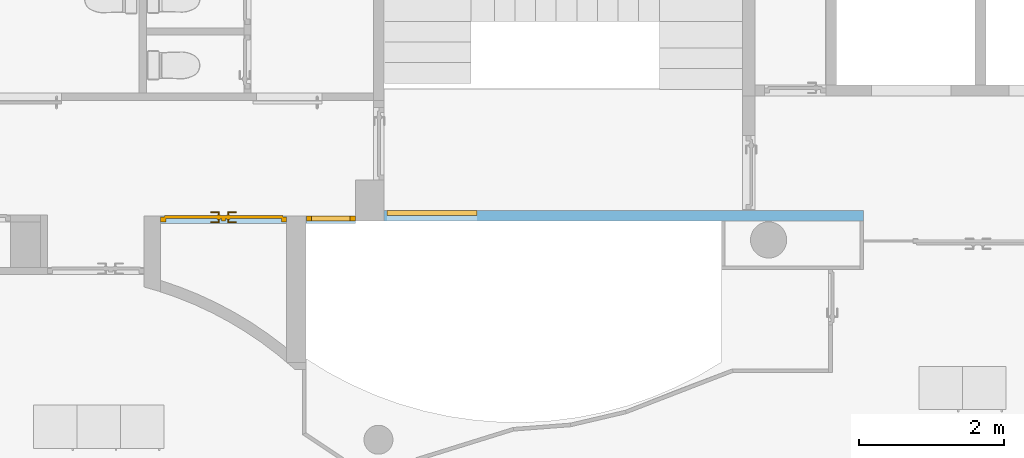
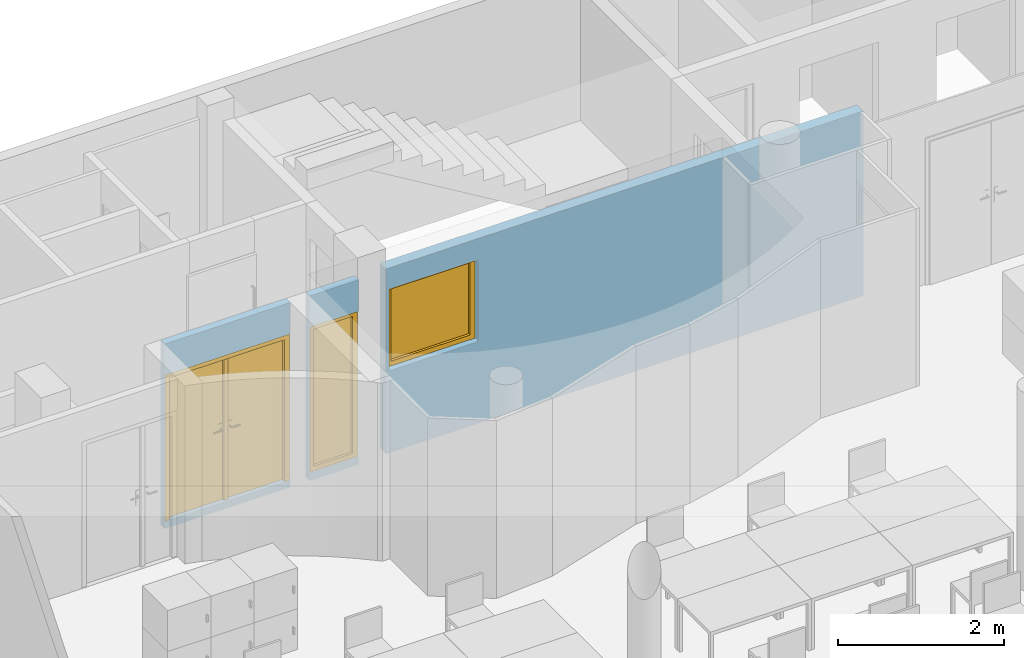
"""IFC4 building model written with IfcOpenShell, lengths in metres."""

from ifc_helpers import new_model, entity, si_unit, converted_unit, derived_unit, frame, frame_2d, origin, origin_with_axes, place, context, subcontext, project, spatial, polyline, rectangle, outline, extrude, closed_shell, open_shell, faceted_brep, surface_model, source, transform, mapped, material, layer, layer_set, layer_usage, type_object, element, fill, save


model = new_model("IFC4")

# Units and contexts
model_context = context("Model", 3, precision=1e-05, world=origin())
body_context = subcontext(model_context, "Body", "Model", "MODEL_VIEW")
ifc_project = project(units=[si_unit("LENGTHUNIT", "METRE"), si_unit("AREAUNIT", "SQUARE_METRE"), si_unit("VOLUMEUNIT", "CUBIC_METRE"), si_unit("MASSUNIT", "GRAM", prefix="KILO"), converted_unit("PLANEANGLEUNIT", "DEGREE", entity("IfcPlaneAngleMeasure", 0.0174532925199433), si_unit("PLANEANGLEUNIT", "RADIAN"), dimensions=[0, 0, 0, 0, 0, 0, 0]), derived_unit("THERMALTRANSMITTANCEUNIT", [(si_unit("POWERUNIT", "WATT"), 1), (si_unit("THERMODYNAMICTEMPERATUREUNIT", "KELVIN"), -1), (si_unit("LENGTHUNIT", "METRE"), -2)]), derived_unit("VOLUMETRICFLOWRATEUNIT", [(si_unit("LENGTHUNIT", "METRE"), 3), (converted_unit("TIMEUNIT", "hour", entity("IfcTimeMeasure", 3600.0), si_unit("TIMEUNIT", "SECOND"), dimensions=[0, 0, 1, 0, 0, 0, 0]), -1), (si_unit("LENGTHUNIT", "METRE"), -1)])], contexts=[model_context])

# Building, storeys
building_placement = place(None, origin())
building = spatial("IfcBuilding", under=ifc_project, at=building_placement, Name="HABITATGE PLURIFAMILIAR", CompositionType="ELEMENT")
storey_1_placement = place(building_placement, frame((0.0, 0.0, 18.29)))
storey_1 = spatial("IfcBuildingStorey", under=building, at=storey_1_placement, Name="PLANTA CINQUENA", CompositionType="ELEMENT", Elevation=18.29)
storey_2_placement = place(storey_1_placement, frame((0.0, 0.0, 15.28)))
storey_2 = spatial("IfcBuildingStorey", under=storey_1, at=storey_2_placement, Name="NOU", CompositionType="PARTIAL")

# Wall, opening, window
ifc_material = material()
ifc_layer = layer(ifc_material, 0.15)
ifc_layer_set = layer_set([ifc_layer])
ifc_layer_usage = layer_usage(ifc_layer_set, "AXIS2", "POSITIVE", 0.0)
wall_1_placement = place(storey_2_placement, frame((417.446984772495, 24.3094598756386, -15.38), z_axis=(0.0, 0.0, 1.0), x_axis=(-1.0, 0.0, 0.0)))
wall_1 = element("IfcWall", 1, at=wall_1_placement, inside=storey_2, material=ifc_layer_usage, Name="Evans P5", context=body_context, shape_type="SweptSolid", body=[
    extrude(rectangle(XDim=6.61999999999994, YDim=0.15, at=frame_2d((3.30999999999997, 0.075), x_axis=(1.0, 0.0))), origin_with_axes(), (0.0, 0.0, 1.0), 2.71),
])
opening_1_placement = place(wall_1_placement, frame((6.57999999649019, 0.150000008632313, 1.2), z_axis=(0.0, -1.0, 0.0), x_axis=(0.0, 0.0, 1.0)))
opening_1 = element("IfcOpeningElement", 2, at=opening_1_placement, cuts=wall_1, Name="Vano de Finestra P5", ObjectType="Opening", context=body_context, shape_type="SweptSolid", body=[
    extrude(outline(polyline([(1.2, 1.24), (1.2, 0.0), (0.0, 0.0), (0.0, 1.24), (1.2, 1.24)])), origin_with_axes(), (0.0, 0.0, 1.0), 0.15),
])
shared_shape_1 = source(origin_with_axes(), body_context, "Body", "SurfaceModel", [
    surface_model("IfcShellBasedSurfaceModel", [(1.24, 0.0, 1.2), (1.24, 0.0, 0.0), (1.17, 0.0, 0.0), (1.17, 0.0, 1.2), (1.24, 0.07, 0.0), (1.24, 0.07, 1.2), (1.17, 0.07, 1.2), (1.17, 0.07, 0.0)], [closed_shell([[[0, 1, 2, 3]], [[4, 5, 6, 7]], [[1, 0, 5, 4]], [[2, 1, 4, 7]], [[3, 2, 7, 6]], [[0, 3, 6, 5]]], orient=[[False], [False], [False], [False], [False], [False]])]),
    surface_model("IfcShellBasedSurfaceModel", [(0.07, 0.0, 1.2), (0.07, 0.0, 0.0), (0.0, 0.0, 0.0), (0.0, 0.0, 1.2), (0.07, 0.07, 0.0), (0.07, 0.07, 1.2), (0.0, 0.07, 1.2), (0.0, 0.07, 0.0)], [closed_shell([[[0, 1, 2, 3]], [[4, 5, 6, 7]], [[1, 0, 5, 4]], [[2, 1, 4, 7]], [[3, 2, 7, 6]], [[0, 3, 6, 5]]], orient=[[False], [False], [False], [False], [False], [False]])]),
    surface_model("IfcShellBasedSurfaceModel", [(1.17, 0.0, 0.07), (1.17, 0.0, 0.0), (0.07, 0.0, 0.0), (0.07, 0.0, 0.07), (1.17, 0.07, 0.0), (1.17, 0.07, 0.07), (0.07, 0.07, 0.07), (0.07, 0.07, 0.0)], [closed_shell([[[0, 1, 2, 3]], [[4, 5, 6, 7]], [[1, 0, 5, 4]], [[2, 1, 4, 7]], [[3, 2, 7, 6]], [[0, 3, 6, 5]]], orient=[[False], [False], [False], [False], [False], [False]])]),
    surface_model("IfcShellBasedSurfaceModel", [(1.17, 0.0, 1.2), (1.17, 0.0, 1.13), (0.07, 0.0, 1.13), (0.07, 0.0, 1.2), (1.17, 0.07, 1.13), (1.17, 0.07, 1.2), (0.07, 0.07, 1.2), (0.07, 0.07, 1.13)], [closed_shell([[[0, 1, 2, 3]], [[4, 5, 6, 7]], [[1, 0, 5, 4]], [[2, 1, 4, 7]], [[3, 2, 7, 6]], [[0, 3, 6, 5]]], orient=[[False], [False], [False], [False], [False], [False]])]),
    surface_model("IfcShellBasedSurfaceModel", [(1.17, 0.035, 0.07), (0.07, 0.035, 0.07), (0.07, 0.035, 1.13), (1.17, 0.035, 1.13)], [open_shell([[[0, 1, 2, 3]]], orient=[[False]])]),
])
window_placement = place(opening_1_placement, frame((0.0, 1.24, 0.15), z_axis=(1.0, 0.0, 0.0), x_axis=(0.0, -1.0, 0.0)))
window = element("IfcWindow", 3, at=window_placement, inside=storey_2, Name="Finestra P5", OverallHeight=1.2, OverallWidth=1.24, PartitioningType="USERDEFINED", PredefinedType="WINDOW", context=body_context, shape_type="MappedRepresentation", body=[
    mapped(shared_shape_1, transform((0.0, 0.0, 0.0), x_axis=(1.0, 0.0, 0.0), y_axis=(0.0, 1.0, 0.0), z_axis=(0.0, 0.0, 1.0), scale=1.0)),
])
fill(opening_1, window)

# Wall, openings, doors
wall_2_placement = place(storey_2_placement, frame((410.426984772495, 24.2294598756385, -15.38), z_axis=(0.0, 0.0, 1.0), x_axis=(-1.0, 0.0, 0.0)))
wall_2 = element("IfcWall", 4, at=wall_2_placement, inside=storey_2, Name="Evans P5", context=body_context, shape_type="SweptSolid", body=[
    extrude(rectangle(XDim=1.73999999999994, YDim=0.1, at=frame_2d((0.869999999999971, 0.05), x_axis=(1.0, 0.0))), frame((0.950000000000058, 0.0, 0.0), z_axis=(0.0, 0.0, 1.0), x_axis=(1.0, 0.0, 0.0)), (0.0, 0.0, 1.0), 2.71),
    extrude(rectangle(XDim=0.1, YDim=0.680000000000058, at=frame_2d((0.340000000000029, -0.05), x_axis=(0.0, -1.0))), frame((0.0, 0.1, 0.0), z_axis=(0.0, 0.0, 1.0), x_axis=(1.0, 0.0, 0.0)), (0.0, 0.0, 1.0), 2.71),
])
opening_2_placement = place(wall_2_placement, frame((0.67699491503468, 0.1, 0.1), z_axis=(0.0, -1.0, 0.0), x_axis=(0.0, 0.0, 1.0)))
opening_2 = element("IfcOpeningElement", 5, at=opening_2_placement, cuts=wall_2, Name="Vano porta P5", ObjectType="Opening", context=body_context, shape_type="SweptSolid", body=[
    extrude(outline(polyline([(2.15, 0.67699491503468), (2.15, 0.0), (0.0, 0.0), (0.0, 0.67699491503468), (2.15, 0.67699491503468)])), origin_with_axes(), (0.0, 0.0, 1.0), 0.1),
])
opening_3_placement = place(wall_2_placement, frame((2.68829609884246, 0.1, 0.1), z_axis=(0.0, -1.0, 0.0), x_axis=(0.0, 0.0, 1.0)))
opening_3 = element("IfcOpeningElement", 6, at=opening_3_placement, cuts=wall_2, Name="Vano porta P5", ObjectType="Opening", context=body_context, shape_type="SweptSolid", body=[
    extrude(outline(polyline([(2.15, 1.73829609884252), (2.15, 0.0), (0.0, 0.0), (0.0, 1.73829609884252), (2.15, 1.73829609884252)])), origin_with_axes(), (0.0, 0.0, 1.0), 0.1),
])
door_type = type_object("IfcDoorType", Name="Porta P5", OperationType="NOTDEFINED", ParameterTakesPrecedence=False, PredefinedType="DOOR")
shared_shape_2 = source(origin_with_axes(), body_context, "Body", "SurfaceModel", [
    surface_model("IfcShellBasedSurfaceModel", [(0.0, 0.0700000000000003, 2.15), (0.0, 0.07, 0.0), (0.07, 0.07, 0.0), (0.07, 0.0700000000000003, 2.15), (0.0, 0.0, 0.0), (0.0, 0.0, 2.15), (0.07, 0.0, 2.15), (0.07, 0.0, 0.0)], [closed_shell([[[0, 1, 2, 3]], [[4, 5, 6, 7]], [[1, 0, 5, 4]], [[2, 1, 4, 7]], [[3, 2, 7, 6]], [[0, 3, 6, 5]]], orient=[[False], [False], [False], [False], [False], [False]])]),
    surface_model("IfcShellBasedSurfaceModel", [(0.606994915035, 0.0700000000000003, 2.15), (0.606994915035, 0.07, 0.0), (0.676994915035, 0.07, 0.0), (0.676994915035, 0.0700000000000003, 2.15), (0.606994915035, 0.0, 0.0), (0.606994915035, 0.0, 2.15), (0.676994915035, 0.0, 2.15), (0.676994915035, 0.0, 0.0)], [closed_shell([[[0, 1, 2, 3]], [[4, 5, 6, 7]], [[1, 0, 5, 4]], [[2, 1, 4, 7]], [[3, 2, 7, 6]], [[0, 3, 6, 5]]], orient=[[False], [False], [False], [False], [False], [False]])]),
    surface_model("IfcShellBasedSurfaceModel", [(0.07, 0.07, 0.07), (0.07, 0.07, 0.0), (0.606994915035, 0.07, 0.0), (0.606994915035, 0.07, 0.07), (0.07, 0.0, 0.0), (0.07, 0.0, 0.07), (0.606994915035, 0.0, 0.07), (0.606994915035, 0.0, 0.0)], [closed_shell([[[0, 1, 2, 3]], [[4, 5, 6, 7]], [[1, 0, 5, 4]], [[2, 1, 4, 7]], [[3, 2, 7, 6]], [[0, 3, 6, 5]]], orient=[[False], [False], [False], [False], [False], [False]])]),
    surface_model("IfcShellBasedSurfaceModel", [(0.07, 0.0700000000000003, 2.15), (0.07, 0.0700000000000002, 2.08), (0.606994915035, 0.0700000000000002, 2.08), (0.606994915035, 0.0700000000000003, 2.15), (0.07, 0.0, 2.08), (0.07, 0.0, 2.15), (0.606994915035, 0.0, 2.15), (0.606994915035, 0.0, 2.08)], [closed_shell([[[0, 1, 2, 3]], [[4, 5, 6, 7]], [[1, 0, 5, 4]], [[2, 1, 4, 7]], [[3, 2, 7, 6]], [[0, 3, 6, 5]]], orient=[[False], [False], [False], [False], [False], [False]])]),
    surface_model("IfcShellBasedSurfaceModel", [(0.07, 0.035, 0.07), (0.606994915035, 0.035, 0.07), (0.606994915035, 0.0350000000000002, 2.08), (0.07, 0.0350000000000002, 2.08)], [open_shell([[[0, 1, 2, 3]]], orient=[[False]])]),
])
door_1_placement = place(opening_2_placement, frame((0.0, 0.67699491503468, 0.03), z_axis=(1.0, 0.0, 0.0), x_axis=(0.0, -0.999999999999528, 0.0)))
door_1 = element("IfcDoor", 7, at=door_1_placement, inside=storey_2, type_object=door_type, Name="Porta P5", OverallHeight=2.15, OverallWidth=0.67699, context=body_context, shape_type="MappedRepresentation", body=[
    mapped(shared_shape_2, transform((0.0, 0.0, 0.0), x_axis=(1.0, 0.0, 0.0), y_axis=(0.0, -1.0, 0.0), z_axis=(0.0, 0.0, 1.0), scale=0.999999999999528)),
])
fill(opening_2, door_1)
shared_shape_3 = source(origin_with_axes(), body_context, "Body", "Brep", [
    faceted_brep([(0.0, 0.07, 2.15), (0.0, 0.07, 0.0), (0.07, 0.07, 0.0), (0.07, 0.07, 2.15), (0.0, 0.0, 0.0), (0.0, 0.0, 2.15), (0.07, 0.0, 2.15), (0.07, 0.0, 0.0)], [[[0, 1, 2, 3]], [[4, 5, 6, 7]], [[1, 0, 5, 4]], [[2, 1, 4, 7]], [[3, 2, 7, 6]], [[0, 3, 6, 5]]], orient=[[False], [False], [False], [False], [False], [False]]),
    faceted_brep([(1.66829609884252, 0.07, 2.15), (1.66829609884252, 0.07, 0.0), (1.73829609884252, 0.07, 0.0), (1.73829609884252, 0.07, 2.15), (1.66829609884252, 0.0, 0.0), (1.66829609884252, 0.0, 2.15), (1.73829609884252, 0.0, 2.15), (1.73829609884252, 0.0, 0.0)], [[[0, 1, 2, 3]], [[4, 5, 6, 7]], [[1, 0, 5, 4]], [[2, 1, 4, 7]], [[3, 2, 7, 6]], [[0, 3, 6, 5]]], orient=[[False], [False], [False], [False], [False], [False]]),
    faceted_brep([(0.07, 0.07, 2.15), (0.07, 0.07, 2.08), (1.66829609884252, 0.07, 2.08), (1.66829609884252, 0.07, 2.15), (0.07, 0.0, 2.08), (0.07, 0.0, 2.15), (1.66829609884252, 0.0, 2.15), (1.66829609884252, 0.0, 2.08)], [[[0, 1, 2, 3]], [[4, 5, 6, 7]], [[1, 0, 5, 4]], [[2, 1, 4, 7]], [[3, 2, 7, 6]], [[0, 3, 6, 5]]], orient=[[False], [False], [False], [False], [False], [False]]),
    faceted_brep([(0.05, 0.09, 2.1), (0.05, 0.09, 0.0), (0.868648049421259, 0.09, 0.0), (0.868648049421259, 0.09, 2.1), (0.05, 0.05, 0.0), (0.05, 0.05, 2.1), (0.868648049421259, 0.05, 2.1), (0.868648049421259, 0.05, 0.0)], [[[0, 1, 2, 3]], [[4, 5, 6, 7]], [[1, 0, 5, 4]], [[2, 1, 4, 7]], [[3, 2, 7, 6]], [[0, 3, 6, 5]]], orient=[[False], [False], [False], [False], [False], [False]]),
    faceted_brep([(0.838648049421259, 0.05, 2.08), (0.838648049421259, 0.05, 0.0), (0.898648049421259, 0.05, 0.0), (0.898648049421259, 0.05, 2.08), (0.838648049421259, 0.02, 0.0), (0.838648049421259, 0.02, 2.08), (0.898648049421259, 0.02, 2.08), (0.898648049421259, 0.02, 0.0)], [[[0, 1, 2, 3]], [[4, 5, 6, 7]], [[1, 0, 5, 4]], [[2, 1, 4, 7]], [[3, 2, 7, 6]], [[0, 3, 6, 5]]], orient=[[False], [False], [False], [False], [False], [False]]),
    faceted_brep([(0.778648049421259, 0.05, 1.125), (0.778648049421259, 0.05, 0.91), (0.828648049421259, 0.05, 0.91), (0.828648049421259, 0.05, 1.125), (0.778648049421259, 0.04, 0.91), (0.778648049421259, 0.04, 1.125), (0.828648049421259, 0.04, 1.125), (0.828648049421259, 0.04, 0.91)], [[[0, 1, 2, 3]], [[4, 5, 6, 7]], [[1, 0, 5, 4]], [[2, 1, 4, 7]], [[3, 2, 7, 6]], [[0, 3, 6, 5]]], orient=[[False], [False], [False], [False], [False], [False]]),
    faceted_brep([(0.803648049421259, 0.04, 1.06), (0.798648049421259, 0.04, 1.05866025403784), (0.794987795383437, 0.04, 1.055), (0.793648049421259, 0.04, 1.05), (0.794987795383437, 0.04, 1.045), (0.798648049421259, 0.04, 1.04133974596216), (0.803648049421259, 0.04, 1.04), (0.808648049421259, 0.04, 1.04133974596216), (0.81230830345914, 0.04, 1.045), (0.813648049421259, 0.04, 1.05), (0.81230830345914, 0.04, 1.055), (0.808648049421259, 0.04, 1.05866025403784), (0.808648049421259, -0.005, 1.05866025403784), (0.803648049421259, 0.0, 1.06), (0.81230830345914, -0.00866025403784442, 1.055), (0.813648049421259, -0.01, 1.05), (0.81230830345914, -0.00866025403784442, 1.045), (0.808648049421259, -0.005, 1.04133974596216), (0.803648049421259, 0.0, 1.04), (0.798648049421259, 0.005, 1.04133974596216), (0.794987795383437, 0.00866025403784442, 1.045), (0.793648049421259, 0.01, 1.05), (0.794987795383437, 0.00866025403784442, 1.055), (0.798648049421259, 0.005, 1.05866025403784), (0.688648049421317, 0.0, 1.06), (0.688648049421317, -0.005, 1.05866025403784), (0.688648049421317, -0.00866025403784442, 1.055), (0.688648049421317, -0.01, 1.05), (0.688648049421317, -0.00866025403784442, 1.045), (0.688648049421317, -0.005, 1.04133974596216), (0.688648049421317, 0.0, 1.04), (0.688648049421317, 0.005, 1.04133974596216), (0.688648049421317, 0.00866025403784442, 1.045), (0.688648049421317, 0.01, 1.05), (0.688648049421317, 0.00866025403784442, 1.055), (0.688648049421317, 0.005, 1.05866025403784)], [[[0, 1, 2, 3, 4, 5, 6, 7, 8, 9, 10, 11]], [[0, 11, 12, 13]], [[11, 10, 14, 12]], [[10, 9, 15, 14]], [[9, 8, 16, 15]], [[8, 7, 17, 16]], [[7, 6, 18, 17]], [[6, 5, 19, 18]], [[5, 4, 20, 19]], [[4, 3, 21, 20]], [[3, 2, 22, 21]], [[2, 1, 23, 22]], [[1, 0, 13, 23]], [[24, 25, 26, 27, 28, 29, 30, 31, 32, 33, 34, 35]], [[13, 12, 25, 24]], [[12, 14, 26, 25]], [[14, 15, 27, 26]], [[15, 16, 28, 27]], [[16, 17, 29, 28]], [[17, 18, 30, 29]], [[18, 19, 31, 30]], [[19, 20, 32, 31]], [[20, 21, 33, 32]], [[21, 22, 34, 33]], [[22, 23, 35, 34]], [[23, 13, 24, 35]]], orient=[[False], [False], [False], [False], [False], [False], [False], [False], [False], [False], [False], [False], [False], [False], [False], [False], [False], [False], [False], [False], [False], [False], [False], [False], [False], [False]]),
    faceted_brep([(0.778648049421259, 0.09, 1.125), (0.828648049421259, 0.09, 1.125), (0.828648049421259, 0.09, 0.91), (0.778648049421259, 0.09, 0.91), (0.778648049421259, 0.1, 0.91), (0.828648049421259, 0.1, 0.91), (0.828648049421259, 0.1, 1.125), (0.778648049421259, 0.1, 1.125)], [[[0, 1, 2, 3]], [[4, 5, 6, 7]], [[3, 4, 7, 0]], [[2, 5, 4, 3]], [[1, 6, 5, 2]], [[0, 7, 6, 1]]], orient=[[False], [False], [False], [False], [False], [False]]),
    faceted_brep([(0.803648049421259, 0.1, 1.06), (0.808648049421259, 0.1, 1.05866025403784), (0.81230830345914, 0.1, 1.055), (0.813648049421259, 0.1, 1.05), (0.81230830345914, 0.1, 1.045), (0.808648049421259, 0.1, 1.04133974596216), (0.803648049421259, 0.1, 1.04), (0.798648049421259, 0.1, 1.04133974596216), (0.794987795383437, 0.1, 1.045), (0.793648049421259, 0.1, 1.05), (0.794987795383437, 0.1, 1.055), (0.798648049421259, 0.1, 1.05866025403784), (0.803648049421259, 0.14, 1.06), (0.808648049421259, 0.145, 1.05866025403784), (0.81230830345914, 0.148660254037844, 1.055), (0.813648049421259, 0.15, 1.05), (0.81230830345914, 0.148660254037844, 1.045), (0.808648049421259, 0.145, 1.04133974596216), (0.803648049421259, 0.14, 1.04), (0.798648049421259, 0.135, 1.04133974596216), (0.794987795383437, 0.131339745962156, 1.045), (0.793648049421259, 0.13, 1.05), (0.794987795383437, 0.131339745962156, 1.055), (0.798648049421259, 0.135, 1.05866025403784), (0.688648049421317, 0.14, 1.06), (0.688648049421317, 0.135, 1.05866025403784), (0.688648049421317, 0.131339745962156, 1.055), (0.688648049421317, 0.13, 1.05), (0.688648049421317, 0.131339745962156, 1.045), (0.688648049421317, 0.135, 1.04133974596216), (0.688648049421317, 0.14, 1.04), (0.688648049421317, 0.145, 1.04133974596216), (0.688648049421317, 0.148660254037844, 1.045), (0.688648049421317, 0.15, 1.05), (0.688648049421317, 0.148660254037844, 1.055), (0.688648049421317, 0.145, 1.05866025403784)], [[[0, 1, 2, 3, 4, 5, 6, 7, 8, 9, 10, 11]], [[0, 12, 13, 1]], [[1, 13, 14, 2]], [[2, 14, 15, 3]], [[3, 15, 16, 4]], [[4, 16, 17, 5]], [[5, 17, 18, 6]], [[6, 18, 19, 7]], [[7, 19, 20, 8]], [[8, 20, 21, 9]], [[9, 21, 22, 10]], [[10, 22, 23, 11]], [[11, 23, 12, 0]], [[24, 25, 26, 27, 28, 29, 30, 31, 32, 33, 34, 35]], [[12, 24, 35, 13]], [[13, 35, 34, 14]], [[14, 34, 33, 15]], [[15, 33, 32, 16]], [[16, 32, 31, 17]], [[17, 31, 30, 18]], [[18, 30, 29, 19]], [[19, 29, 28, 20]], [[20, 28, 27, 21]], [[21, 27, 26, 22]], [[22, 26, 25, 23]], [[23, 25, 24, 12]]], orient=[[False], [False], [False], [False], [False], [False], [False], [False], [False], [False], [False], [False], [False], [False], [False], [False], [False], [False], [False], [False], [False], [False], [False], [False], [False], [False]]),
    faceted_brep([(0.869648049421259, 0.09, 2.1), (0.869648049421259, 0.09, 0.0), (1.68829609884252, 0.09, 0.0), (1.68829609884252, 0.09, 2.1), (0.869648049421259, 0.05, 0.0), (0.869648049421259, 0.05, 2.1), (1.68829609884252, 0.05, 2.1), (1.68829609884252, 0.05, 0.0)], [[[0, 1, 2, 3]], [[4, 5, 6, 7]], [[1, 0, 5, 4]], [[2, 1, 4, 7]], [[3, 2, 7, 6]], [[0, 3, 6, 5]]], orient=[[False], [False], [False], [False], [False], [False]]),
    faceted_brep([(0.909648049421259, 0.05, 1.125), (0.909648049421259, 0.05, 0.91), (0.959648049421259, 0.05, 0.91), (0.959648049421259, 0.05, 1.125), (0.909648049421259, 0.04, 0.91), (0.909648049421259, 0.04, 1.125), (0.959648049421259, 0.04, 1.125), (0.959648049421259, 0.04, 0.91)], [[[0, 1, 2, 3]], [[4, 5, 6, 7]], [[1, 0, 5, 4]], [[2, 1, 4, 7]], [[3, 2, 7, 6]], [[0, 3, 6, 5]]], orient=[[False], [False], [False], [False], [False], [False]]),
    faceted_brep([(0.934648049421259, 0.04, 1.06), (0.929648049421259, 0.04, 1.05866025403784), (0.925987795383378, 0.04, 1.055), (0.924648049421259, 0.04, 1.05), (0.925987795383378, 0.04, 1.045), (0.929648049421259, 0.04, 1.04133974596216), (0.934648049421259, 0.04, 1.04), (0.939648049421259, 0.04, 1.04133974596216), (0.943308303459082, 0.04, 1.045), (0.944648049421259, 0.04, 1.05), (0.943308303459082, 0.04, 1.055), (0.939648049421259, 0.04, 1.05866025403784), (0.934648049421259, 0.0, 1.06), (0.929648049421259, -0.005, 1.05866025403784), (0.925987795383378, -0.00866025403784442, 1.055), (0.924648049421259, -0.01, 1.05), (0.925987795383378, -0.00866025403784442, 1.045), (0.929648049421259, -0.005, 1.04133974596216), (0.934648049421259, 0.0, 1.04), (0.939648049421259, 0.005, 1.04133974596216), (0.943308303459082, 0.00866025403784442, 1.045), (0.944648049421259, 0.01, 1.05), (0.943308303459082, 0.00866025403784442, 1.055), (0.939648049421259, 0.005, 1.05866025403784), (1.0496480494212, 0.0, 1.06), (1.0496480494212, 0.005, 1.05866025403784), (1.0496480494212, 0.00866025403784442, 1.055), (1.0496480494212, 0.01, 1.05), (1.0496480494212, 0.00866025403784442, 1.045), (1.0496480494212, 0.005, 1.04133974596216), (1.0496480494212, 0.0, 1.04), (1.0496480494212, -0.005, 1.04133974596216), (1.0496480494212, -0.00866025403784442, 1.045), (1.0496480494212, -0.01, 1.05), (1.0496480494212, -0.00866025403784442, 1.055), (1.0496480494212, -0.005, 1.05866025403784)], [[[0, 1, 2, 3, 4, 5, 6, 7, 8, 9, 10, 11]], [[0, 12, 13, 1]], [[1, 13, 14, 2]], [[2, 14, 15, 3]], [[3, 15, 16, 4]], [[4, 16, 17, 5]], [[5, 17, 18, 6]], [[6, 18, 19, 7]], [[7, 19, 20, 8]], [[8, 20, 21, 9]], [[9, 21, 22, 10]], [[10, 22, 23, 11]], [[11, 23, 12, 0]], [[24, 25, 26, 27, 28, 29, 30, 31, 32, 33, 34, 35]], [[12, 24, 35, 13]], [[13, 35, 34, 14]], [[14, 34, 33, 15]], [[15, 33, 32, 16]], [[16, 32, 31, 17]], [[17, 31, 30, 18]], [[18, 30, 29, 19]], [[19, 29, 28, 20]], [[20, 28, 27, 21]], [[21, 27, 26, 22]], [[22, 26, 25, 23]], [[23, 25, 24, 12]]], orient=[[False], [False], [False], [False], [False], [False], [False], [False], [False], [False], [False], [False], [False], [False], [False], [False], [False], [False], [False], [False], [False], [False], [False], [False], [False], [False]]),
    faceted_brep([(0.909648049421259, 0.09, 1.125), (0.959648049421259, 0.09, 1.125), (0.959648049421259, 0.09, 0.91), (0.909648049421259, 0.09, 0.91), (0.909648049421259, 0.1, 0.91), (0.959648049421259, 0.1, 0.91), (0.959648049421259, 0.1, 1.125), (0.909648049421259, 0.1, 1.125)], [[[0, 1, 2, 3]], [[4, 5, 6, 7]], [[3, 4, 7, 0]], [[2, 5, 4, 3]], [[1, 6, 5, 2]], [[0, 7, 6, 1]]], orient=[[False], [False], [False], [False], [False], [False]]),
    faceted_brep([(0.934648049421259, 0.1, 1.06), (0.939648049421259, 0.1, 1.05866025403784), (0.943308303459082, 0.1, 1.055), (0.944648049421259, 0.1, 1.05), (0.943308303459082, 0.1, 1.045), (0.939648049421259, 0.1, 1.04133974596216), (0.934648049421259, 0.1, 1.04), (0.929648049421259, 0.1, 1.04133974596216), (0.925987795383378, 0.1, 1.045), (0.924648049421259, 0.1, 1.05), (0.925987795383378, 0.1, 1.055), (0.929648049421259, 0.1, 1.05866025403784), (0.929648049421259, 0.145, 1.05866025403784), (0.934648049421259, 0.14, 1.06), (0.925987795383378, 0.148660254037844, 1.055), (0.924648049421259, 0.15, 1.05), (0.925987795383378, 0.148660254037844, 1.045), (0.929648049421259, 0.145, 1.04133974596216), (0.934648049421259, 0.14, 1.04), (0.939648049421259, 0.135, 1.04133974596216), (0.943308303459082, 0.131339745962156, 1.045), (0.944648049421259, 0.13, 1.05), (0.943308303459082, 0.131339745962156, 1.055), (0.939648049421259, 0.135, 1.05866025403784), (1.0496480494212, 0.14, 1.06), (1.0496480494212, 0.145, 1.05866025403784), (1.0496480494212, 0.148660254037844, 1.055), (1.0496480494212, 0.15, 1.05), (1.0496480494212, 0.148660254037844, 1.045), (1.0496480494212, 0.145, 1.04133974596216), (1.0496480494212, 0.14, 1.04), (1.0496480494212, 0.135, 1.04133974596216), (1.0496480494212, 0.131339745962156, 1.045), (1.0496480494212, 0.13, 1.05), (1.0496480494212, 0.131339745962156, 1.055), (1.0496480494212, 0.135, 1.05866025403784)], [[[0, 1, 2, 3, 4, 5, 6, 7, 8, 9, 10, 11]], [[0, 11, 12, 13]], [[11, 10, 14, 12]], [[10, 9, 15, 14]], [[9, 8, 16, 15]], [[8, 7, 17, 16]], [[7, 6, 18, 17]], [[6, 5, 19, 18]], [[5, 4, 20, 19]], [[4, 3, 21, 20]], [[3, 2, 22, 21]], [[2, 1, 23, 22]], [[1, 0, 13, 23]], [[24, 25, 26, 27, 28, 29, 30, 31, 32, 33, 34, 35]], [[13, 12, 25, 24]], [[12, 14, 26, 25]], [[14, 15, 27, 26]], [[15, 16, 28, 27]], [[16, 17, 29, 28]], [[17, 18, 30, 29]], [[18, 19, 31, 30]], [[19, 20, 32, 31]], [[20, 21, 33, 32]], [[21, 22, 34, 33]], [[22, 23, 35, 34]], [[23, 13, 24, 35]]], orient=[[False], [False], [False], [False], [False], [False], [False], [False], [False], [False], [False], [False], [False], [False], [False], [False], [False], [False], [False], [False], [False], [False], [False], [False], [False], [False]]),
])
door_2_placement = place(opening_3_placement, frame((0.0, 0.0, 0.015), z_axis=(1.0, 0.0, 0.0), x_axis=(0.0, 1.0, 0.0)))
door_2 = element("IfcDoor", 8, at=door_2_placement, inside=storey_2, Name="Porta P5", OperationType="USERDEFINED", OverallHeight=2.15, OverallWidth=1.7383, PredefinedType="DOOR", context=body_context, shape_type="MappedRepresentation", body=[
    mapped(shared_shape_3, transform((0.0, 0.0, 0.0), x_axis=(1.0, 0.0, 0.0), y_axis=(0.0, 1.0, 0.0), z_axis=(0.0, 0.0, 1.0), scale=1.0)),
])
fill(opening_3, door_2)

save(model, "model.ifc")
